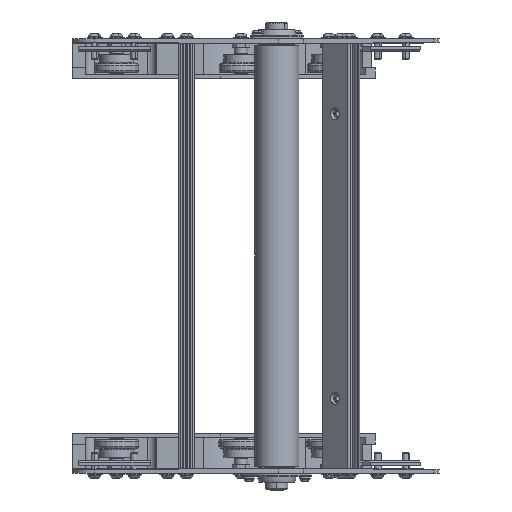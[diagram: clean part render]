
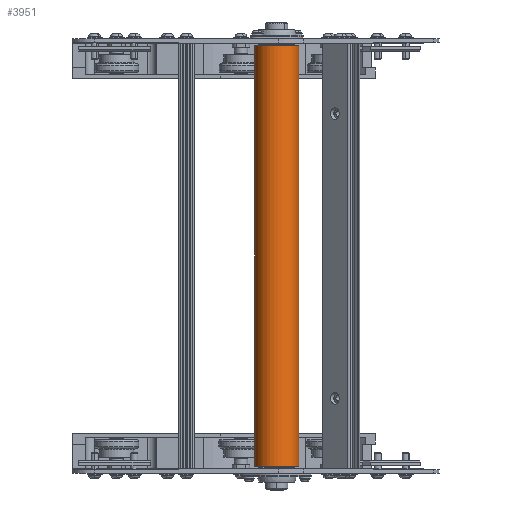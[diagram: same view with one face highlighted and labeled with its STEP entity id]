
A CAD part, front view. The second image highlights one B-rep face of the part: STEP entity #3951.
In plain terms, the highlighted cylindrical face has radius 25 mm (diameter 50 mm), a partial arc.
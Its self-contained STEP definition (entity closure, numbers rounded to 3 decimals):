
#301 = DIRECTION ( 'NONE',  ( 0., 0., -1. ) ) ;
#925 = VECTOR ( 'NONE', #4985, 1000. ) ;
#1696 = AXIS2_PLACEMENT_3D ( 'NONE', #2611, #8080, #12713 ) ;
#1964 = CYLINDRICAL_SURFACE ( 'NONE', #1696, 25. ) ;
#2162 = EDGE_CURVE ( 'NONE', #7152, #2456, #5643, .T. ) ;
#2334 = CARTESIAN_POINT ( 'NONE',  ( 25., 0., -238.5 ) ) ;
#2456 = VERTEX_POINT ( 'NONE', #18004 ) ;
#2611 = CARTESIAN_POINT ( 'NONE',  ( 0., 0., -238.5 ) ) ;
#3014 = CARTESIAN_POINT ( 'NONE',  ( 0., 0., -238.5 ) ) ;
#3951 = ADVANCED_FACE ( 'NONE', ( #11918 ), #1964, .T. ) ;
#4804 = DIRECTION ( 'NONE',  ( -1., 0., 0. ) ) ;
#4985 = DIRECTION ( 'NONE',  ( 0., 0., 1. ) ) ;
#5643 = LINE ( 'NONE', #16581, #925 ) ;
#5695 = CARTESIAN_POINT ( 'NONE',  ( 25., 0., -238.5 ) ) ;
#6668 = CARTESIAN_POINT ( 'NONE',  ( -25., 0., -238.5 ) ) ;
#7152 = VERTEX_POINT ( 'NONE', #6668 ) ;
#7378 = CARTESIAN_POINT ( 'NONE',  ( 25., 0., 238.5 ) ) ;
#7380 = EDGE_LOOP ( 'NONE', ( #12444, #10546, #22167, #20491 ) ) ;
#8080 = DIRECTION ( 'NONE',  ( 0., 0., 1. ) ) ;
#10225 = VECTOR ( 'NONE', #18026, 1000. ) ;
#10246 = EDGE_CURVE ( 'NONE', #15311, #7152, #14979, .T. ) ;
#10546 = ORIENTED_EDGE ( 'NONE', *, *, #10246, .F. ) ;
#10576 = EDGE_CURVE ( 'NONE', #20186, #2456, #14684, .T. ) ;
#10892 = CARTESIAN_POINT ( 'NONE',  ( 0., 0., 238.5 ) ) ;
#11918 = FACE_OUTER_BOUND ( 'NONE', #7380, .T. ) ;
#12444 = ORIENTED_EDGE ( 'NONE', *, *, #2162, .F. ) ;
#12658 = DIRECTION ( 'NONE',  ( -1., 0., 0. ) ) ;
#12713 = DIRECTION ( 'NONE',  ( 1., 0., 0. ) ) ;
#14462 = EDGE_CURVE ( 'NONE', #15311, #20186, #19565, .T. ) ;
#14684 = CIRCLE ( 'NONE', #15431, 25. ) ;
#14979 = CIRCLE ( 'NONE', #15865, 25. ) ;
#15311 = VERTEX_POINT ( 'NONE', #2334 ) ;
#15405 = DIRECTION ( 'NONE',  ( 0., 0., -1. ) ) ;
#15431 = AXIS2_PLACEMENT_3D ( 'NONE', #10892, #301, #12658 ) ;
#15865 = AXIS2_PLACEMENT_3D ( 'NONE', #3014, #15405, #4804 ) ;
#16581 = CARTESIAN_POINT ( 'NONE',  ( -25., 0., -238.5 ) ) ;
#18004 = CARTESIAN_POINT ( 'NONE',  ( -25., 0., 238.5 ) ) ;
#18026 = DIRECTION ( 'NONE',  ( 0., 0., 1. ) ) ;
#19565 = LINE ( 'NONE', #5695, #10225 ) ;
#20186 = VERTEX_POINT ( 'NONE', #7378 ) ;
#20491 = ORIENTED_EDGE ( 'NONE', *, *, #10576, .T. ) ;
#22167 = ORIENTED_EDGE ( 'NONE', *, *, #14462, .T. ) ;
